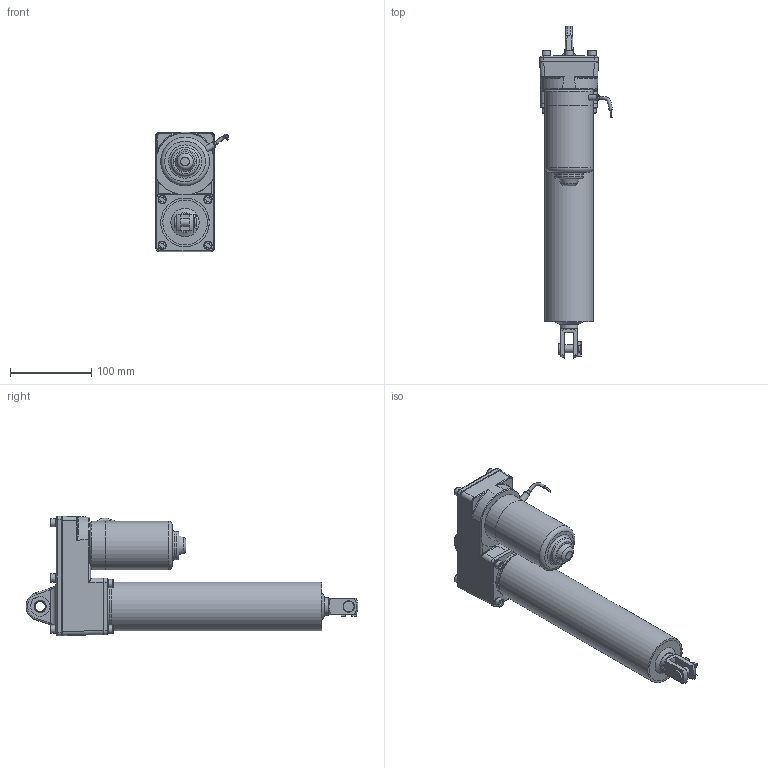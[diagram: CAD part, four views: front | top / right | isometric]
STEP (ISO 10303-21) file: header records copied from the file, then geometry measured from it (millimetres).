
FILE_DESCRIPTION(/* description */ ('Unknown'),/* implementation_level */ '2;1');
FILE_NAME(/* name */ 'T6C2-DC-0200-162-130-0',/* time_stamp */ '2025-07-21T10:14:53+02:00',/* author */ ('Unknown'),/* organization */ ('Unknown'),/* preprocessor_version */ 'ST-DEVELOPER v19.4',/* originating_system */ 'Solid Edge',/* authorisation */ 'Unknown');
FILE_SCHEMA (('PROCESS_PLANNING_SCHEMA','AUTOMOTIVE_DESIGN {1 0 10303 214 3 1 1}'));
Length unit declared in the file: millimetre
Products named in the file (6): 162-130-0; 12.00-C2_4_Auge; 01.01-02_kpl_Gabelkopf; 02.14-C2-0200; 01.15-C2-0200; Gleichstrommotor._DOGA
Assembly tree (5 placements, depth 2):
  162-130-0
    12.00-C2_4_Auge
    01.01-02_kpl_Gabelkopf
    02.14-C2-0200
    01.15-C2-0200
    Gleichstrommotor._DOGA
Bounding box: 89.14 x 408.92 x 147 mm (x, y, z)
Volume: 1595008 mm3; surface area: 178693.6 mm2
Topology: 6 solids, 7 shells, 513 faces, 1277 edges, 824 vertices
Faces by surface type: plane 266, cylinder 169, bspline 38, cone 19, torus 19, sphere 2
Full cylindrical faces by diameter (mm): 1 x10, 1.5 x2, 4 x1, 4.134 x4, 7.595 x1, 8 x2, 10 x13, 10.05 x8, 11.4 x1, 12 x1, 14 x1, 21.999 x1, 22 x1, 24 x2, 32 x1, 34.999 x1, 35 x1, 55 x1, 59.9 x1, 60 x1
Entity records: 19048 total; most frequent: CARTESIAN_POINT 3681, DIRECTION 2453, ORIENTED_EDGE 2266, EDGE_CURVE 1133, AXIS2_PLACEMENT_3D 914, VERTEX_POINT 784, FACE_BOUND 681, EDGE_LOOP 676
